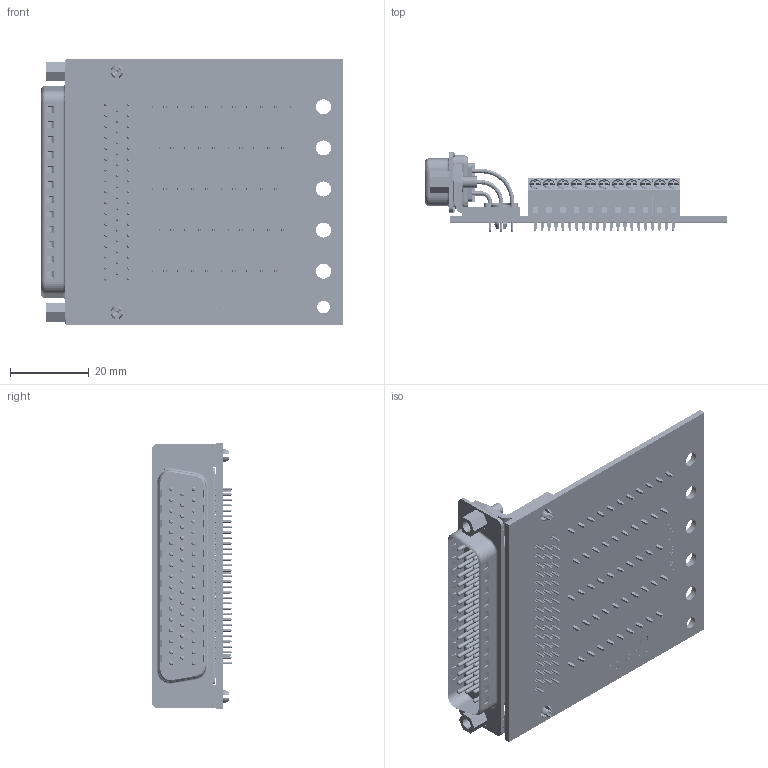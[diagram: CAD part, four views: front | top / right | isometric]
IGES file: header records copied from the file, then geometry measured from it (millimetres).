
Start section: SolidWorks IGES file using analytic representation for surfaces
Global section: file name: W:\end-user\products\brk\brksd\brksd50m\3dmodel\rev_a\render\brksd50m-r_rev_a.IGS; native system: SolidWorks 2018; preprocessor: SolidWorks 2018; author: leviroy; date: 210213.073252; units: inch
Bounding box: 76.37 x 20.31 x 67.31 mm (x, y, z)
Surface area: 38065.7 mm2 (no closed solid volume)
Topology: 0 solids, 0 shells, 12426 faces, 108370 edges, 108254 vertices
Faces by surface type: bspline 9923, revolution 2503
